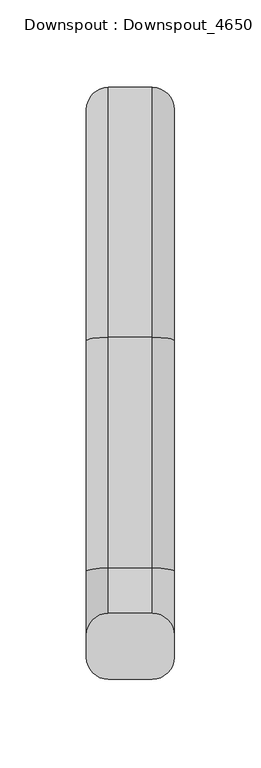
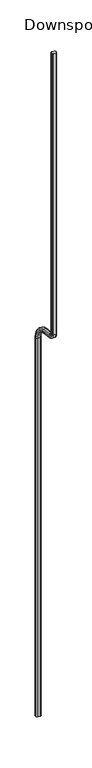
"""IFC4 building model written with IfcOpenShell, lengths in millimetres: proxy geometry, Downspout : Downspout_4650."""

from ifc_helpers import new_model, si_unit, point, frame, origin, place, context, project, spatial, polyline, circle_curve, ellipse_curve, trimmed, source, transform, mapped, element, save
from ifc_brep_helpers import plane_surface, cylinder_surface, revolved_surface, advanced_brep


def downspout_downspout_4650_563059b9(model_context):
    return source(origin(), model_context, "Body", "AdvancedBrep", [
        advanced_brep(
        [(-12.7, -323.85, 7924.8), (12.7, -323.85, 7924.8), (25.4, -311.15, 7924.8), (25.4, -298.45, 7924.8), (12.7, -285.75, 7924.8), (-12.7, -285.75, 7924.8), (-25.4, -298.45, 7924.8), (-25.4, -311.15, 7924.8), (-12.7, -323.85, 4643.3010696), (12.7, -323.85, 4643.3010696), (25.4, -311.15, 4643.3010696), (25.4, -262.9402297, 4586.8546809), (25.4, -129.5527464, 4565.728179), (25.4, -6.35, 4421.4762969), (25.4, -6.35, 0.0), (25.4, 6.35, 0.0), (25.4, 6.35, 4421.4762969), (25.4, -127.5660287, 4578.271821), (25.4, -260.953512, 4599.3983229), (25.4, -298.45, 4643.3010696), (12.7, -285.75, 4643.3010696), (-12.7, -285.75, 4643.3010696), (-25.4, -298.45, 4643.3010696), (-25.4, -260.953512, 4599.3983229), (-25.4, -127.5660287, 4578.271821), (-25.4, 6.35, 4421.4762969), (-25.4, 6.35, 0.0), (-25.4, -6.35, 0.0), (-25.4, -6.35, 4421.4762969), (-25.4, -129.5527464, 4565.728179), (-25.4, -262.9402297, 4586.8546809), (-25.4, -311.15, 4643.3010696), (12.7, -264.9269474, 4574.311039), (-12.7, -264.9269474, 4574.311039), (12.7, -258.9667943, 4611.9419648), (-12.7, -258.9667943, 4611.9419648), (-12.7, -131.5394641, 4553.1845371), (12.7, -131.5394641, 4553.1845371), (12.7, -125.579311, 4590.8154629), (-12.7, -125.579311, 4590.8154629), (12.7, -19.05, 4421.4762969), (-12.7, -19.05, 4421.4762969), (12.7, 19.05, 4421.4762969), (-12.7, 19.05, 4421.4762969), (-12.7, -19.05, 0.0), (-12.7, 19.05, 0.0), (12.7, 19.05, 0.0), (12.7, -19.05, 0.0)],
        [
            (0, 1),
            (1, 2, circle_curve(frame((12.7, -311.15, 7924.8), z_axis=(0.0, 0.0, 1.0), x_axis=(1.0, 0.0, 0.0)), 12.7)),
            (2, 3),
            (3, 4, circle_curve(frame((12.7, -298.45, 7924.8), z_axis=(0.0, 0.0, 1.0), x_axis=(1.0, 0.0, 0.0)), 12.7)),
            (4, 5),
            (5, 6, circle_curve(frame((-12.7, -298.45, 7924.8), z_axis=(0.0, 0.0, 1.0), x_axis=(1.0, 0.0, 0.0)), 12.7)),
            (6, 7),
            (7, 0, circle_curve(frame((-12.7, -311.15, 7924.8), z_axis=(0.0, 0.0, 1.0), x_axis=(1.0, 0.0, 0.0)), 12.7)),
            (0, 8),
            (8, 9),
            (9, 1),
            (9, 10, circle_curve(frame((12.7, -311.15, 4643.3010696), z_axis=(0.0, 0.0, 1.0), x_axis=(1.0, 0.0, 0.0)), 12.7)),
            (10, 2),
            (10, 11, circle_curve(frame((25.4, -254.0, 4643.3010696), z_axis=(1.0, 0.0, 0.0), x_axis=(0.0, -1.0, 0.0)), 57.15)),
            (11, 12),
            (12, 13, circle_curve(frame((25.4, -152.4, 4421.4762969), z_axis=(-1.0, 0.0, 0.0), x_axis=(0.0, 0.15643446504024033, 0.9876883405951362)), 146.05)),
            (13, 14),
            (14, 15),
            (15, 16),
            (16, 17, circle_curve(frame((25.4, -152.4, 4421.4762969), z_axis=(1.0, 0.0, 0.0), x_axis=(0.0, 0.15643446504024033, 0.9876883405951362)), 158.75)),
            (17, 18),
            (18, 19, circle_curve(frame((25.4, -254.0, 4643.3010696), z_axis=(-1.0, 0.0, 0.0), x_axis=(0.0, -1.0, 0.0)), 44.45)),
            (19, 3),
            (19, 20, circle_curve(frame((12.7, -298.45, 4643.3010696), z_axis=(0.0, 0.0, 1.0), x_axis=(1.0, 0.0, 0.0)), 12.7)),
            (20, 4),
            (20, 21),
            (21, 5),
            (21, 22, circle_curve(frame((-12.7, -298.45, 4643.3010696), z_axis=(0.0, 0.0, 1.0), x_axis=(1.0, 0.0, 0.0)), 12.7)),
            (22, 6),
            (22, 23, circle_curve(frame((-25.4, -254.0, 4643.3010696), z_axis=(1.0, 0.0, 0.0), x_axis=(0.0, -1.0, 0.0)), 44.45)),
            (23, 24),
            (24, 25, circle_curve(frame((-25.4, -152.4, 4421.4762969), z_axis=(-1.0, 0.0, 0.0), x_axis=(0.0, 0.15643446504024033, 0.9876883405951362)), 158.75)),
            (25, 26),
            (26, 27),
            (27, 28),
            (28, 29, circle_curve(frame((-25.4, -152.4, 4421.4762969), z_axis=(1.0, 0.0, 0.0), x_axis=(0.0, 0.15643446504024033, 0.9876883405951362)), 146.05)),
            (29, 30),
            (30, 31, circle_curve(frame((-25.4, -254.0, 4643.3010696), z_axis=(-1.0, 0.0, 0.0), x_axis=(0.0, -1.0, 0.0)), 57.15)),
            (31, 7),
            (31, 8, circle_curve(frame((-12.7, -311.15, 4643.3010696), z_axis=(0.0, 0.0, 1.0), x_axis=(1.0, 0.0, 0.0)), 12.7)),
            (32, 9, circle_curve(frame((12.7, -254.0, 4643.3010696), z_axis=(-1.0, 0.0, 0.0), x_axis=(0.0, -1.0, 0.0)), 69.85)),
            (8, 33, circle_curve(frame((-12.7, -254.0, 4643.3010696), z_axis=(1.0, 0.0, 0.0), x_axis=(0.0, -1.0, 0.0)), 69.85)),
            (33, 32),
            (32, 11, circle_curve(frame((12.7, -262.9402297, 4586.8546809), z_axis=(0.0, -0.9876883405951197, 0.15643446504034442), x_axis=(1.0, 0.0, 0.0)), 12.7)),
            (34, 20, circle_curve(frame((12.7, -254.0, 4643.3010696), z_axis=(-1.0, 0.0, 0.0), x_axis=(0.0, -1.0, 0.0)), 31.75)),
            (18, 34, circle_curve(frame((12.7, -260.953512, 4599.3983229), z_axis=(0.0, -0.9876883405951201, 0.1564344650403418), x_axis=(1.0, 0.0, 0.0)), 12.7)),
            (35, 21, circle_curve(frame((-12.7, -254.0, 4643.3010696), z_axis=(-1.0, 0.0, 0.0), x_axis=(0.0, -1.0, 0.0)), 31.75)),
            (34, 35),
            (35, 23, circle_curve(frame((-12.7, -260.953512, 4599.3983229), z_axis=(0.0, -0.9876883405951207, 0.15643446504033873), x_axis=(1.0, 0.0, 0.0)), 12.7)),
            (30, 33, circle_curve(frame((-12.7, -262.9402297, 4586.8546809), z_axis=(0.0, -0.9876883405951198, 0.15643446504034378), x_axis=(1.0, 0.0, 0.0)), 12.7)),
            (33, 36),
            (36, 37),
            (37, 32),
            (37, 12, circle_curve(frame((12.7, -129.5527464, 4565.728179), z_axis=(0.0, -0.9876883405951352, 0.15643446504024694), x_axis=(1.0, 0.0, 0.0)), 12.7)),
            (17, 38, circle_curve(frame((12.7, -127.5660287, 4578.271821), z_axis=(0.0, -0.9876883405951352, 0.15643446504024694), x_axis=(1.0, 0.0, 0.0)), 12.7)),
            (38, 34),
            (38, 39),
            (39, 35),
            (39, 24, circle_curve(frame((-12.7, -127.5660287, 4578.271821), z_axis=(0.0, -0.9876883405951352, 0.15643446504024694), x_axis=(1.0, 0.0, 0.0)), 12.7)),
            (29, 36, circle_curve(frame((-12.7, -129.5527464, 4565.728179), z_axis=(0.0, -0.9876883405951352, 0.15643446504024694), x_axis=(1.0, 0.0, 0.0)), 12.7)),
            (40, 37, circle_curve(frame((12.7, -152.4, 4421.4762969), z_axis=(1.0, 0.0, 0.0), x_axis=(0.0, 0.15643446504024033, 0.9876883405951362)), 133.35)),
            (36, 41, circle_curve(frame((-12.7, -152.4, 4421.4762969), z_axis=(-1.0, 0.0, 0.0), x_axis=(0.0, 0.15643446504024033, 0.9876883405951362)), 133.35)),
            (41, 40),
            (40, 13, circle_curve(frame((12.7, -6.35, 4421.4762969), z_axis=(0.0, 0.0, 1.0), x_axis=(1.0, 0.0, 0.0)), 12.7)),
            (42, 38, circle_curve(frame((12.7, -152.4, 4421.4762969), z_axis=(1.0, 0.0, 0.0), x_axis=(0.0, 0.15643446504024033, 0.9876883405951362)), 171.45)),
            (16, 42, circle_curve(frame((12.7, 6.35, 4421.4762969), z_axis=(0.0, 0.0, 1.0), x_axis=(1.0, 0.0, 0.0)), 12.7)),
            (43, 39, circle_curve(frame((-12.7, -152.4, 4421.4762969), z_axis=(1.0, 0.0, 0.0), x_axis=(0.0, 0.15643446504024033, 0.9876883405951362)), 171.45)),
            (42, 43),
            (43, 25, circle_curve(frame((-12.7, 6.35, 4421.4762969), z_axis=(0.0, 0.0, 1.0), x_axis=(1.0, 0.0, 0.0)), 12.7)),
            (28, 41, circle_curve(frame((-12.7, -6.35, 4421.4762969), z_axis=(0.0, 0.0, 1.0), x_axis=(1.0, 0.0, 0.0)), 12.7)),
            (44, 27, circle_curve(frame((-12.7, -6.35, 0.0), z_axis=(0.0, 0.0, -1.0), x_axis=(1.0, 0.0, 0.0)), 12.7)),
            (26, 45, circle_curve(frame((-12.7, 6.35, 0.0), z_axis=(0.0, 0.0, -1.0), x_axis=(1.0, 0.0, 0.0)), 12.7)),
            (45, 46),
            (46, 15, circle_curve(frame((12.7, 6.35, 0.0), z_axis=(0.0, 0.0, -1.0), x_axis=(1.0, 0.0, 0.0)), 12.7)),
            (14, 47, circle_curve(frame((12.7, -6.35, 0.0), z_axis=(0.0, 0.0, -1.0), x_axis=(1.0, 0.0, 0.0)), 12.7)),
            (47, 44),
            (41, 44),
            (47, 40),
            (46, 42),
            (45, 43),
        ],
        [
            plane_surface(frame((0.0, -304.8, 7924.8), z_axis=(0.0, 0.0, 1.0), x_axis=(1.0, 0.0, 0.0))),
            plane_surface(frame((-12.7, -323.85, 7924.8), z_axis=(0.0, -1.0, 0.0), x_axis=(0.0, 0.0, -1.0))),
            cylinder_surface(frame((12.7, -311.15, 7924.8), z_axis=(0.0, 0.0, 1.0), x_axis=(1.0, 0.0, 0.0)), 12.7),
            plane_surface(frame((25.4, -311.15, 7924.8), z_axis=(1.0, 0.0, 0.0), x_axis=(0.0, 0.0, -1.0))),
            cylinder_surface(frame((12.7, -298.45, 7924.8), z_axis=(0.0, 0.0, 1.0), x_axis=(1.0, 0.0, 0.0)), 12.7),
            plane_surface(frame((12.7, -285.75, 7924.8), z_axis=(0.0, 1.0, 0.0), x_axis=(0.0, 0.0, -1.0))),
            cylinder_surface(frame((-12.7, -298.45, 7924.8), z_axis=(0.0, 0.0, 1.0), x_axis=(1.0, 0.0, 0.0)), 12.7),
            plane_surface(frame((-25.4, -298.45, 7924.8), z_axis=(-1.0, 0.0, 0.0), x_axis=(0.0, 0.0, -1.0))),
            cylinder_surface(frame((-12.7, -311.15, 7924.8), z_axis=(0.0, 0.0, 1.0), x_axis=(1.0, 0.0, 0.0)), 12.7),
            cylinder_surface(frame((0.0, -254.0, 4643.3010696), z_axis=(1.0, 0.0, 0.0), x_axis=(0.0, -1.0, 0.0)), 69.85),
            revolved_surface(trimmed(ellipse_curve(frame((12.7, -311.15, 4643.3010696), z_axis=(0.0, 0.0, 1.0), x_axis=(1.0, 0.0, 0.0)), 12.7, 12.7), [point((12.7, -323.85, 4643.3010696))], [point((25.4, -311.15, 4643.3010696))], True, "CARTESIAN"), (0.0, -254.0, 4643.3010696), (1.0, 0.0, 0.0)),
            revolved_surface(trimmed(ellipse_curve(frame((12.7, -298.45, 4643.3010696), z_axis=(0.0, 0.0, 1.0), x_axis=(1.0, 0.0, 0.0)), 12.7, 12.7), [point((25.4, -298.45, 4643.3010696))], [point((12.7, -285.75, 4643.3010696))], True, "CARTESIAN"), (0.0, -254.0, 4643.3010696), (1.0, 0.0, 0.0)),
            revolved_surface(polyline([(12.7, -285.75, 4643.3010696), (-12.7, -285.75, 4643.3010696)]), (0.0, -254.0, 4643.3010696), (1.0, 0.0, 0.0)),
            revolved_surface(trimmed(ellipse_curve(frame((-12.7, -298.45, 4643.3010696), z_axis=(0.0, 0.0, 1.0), x_axis=(1.0, 0.0, 0.0)), 12.7, 12.7), [point((-12.7, -285.75, 4643.3010696))], [point((-25.4, -298.45, 4643.3010696))], True, "CARTESIAN"), (0.0, -254.0, 4643.3010696), (1.0, 0.0, 0.0)),
            revolved_surface(trimmed(ellipse_curve(frame((-12.7, -311.15, 4643.3010696), z_axis=(0.0, 0.0, 1.0), x_axis=(1.0, 0.0, 0.0)), 12.7, 12.7), [point((-25.4, -311.15, 4643.3010696))], [point((-12.7, -323.85, 4643.3010696))], True, "CARTESIAN"), (0.0, -254.0, 4643.3010696), (1.0, 0.0, 0.0)),
            plane_surface(frame((-12.7, -264.9269474, 4574.311039), z_axis=(0.0, -0.15643446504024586, -0.9876883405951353), x_axis=(0.0, 0.9876883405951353, -0.15643446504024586))),
            cylinder_surface(frame((12.7, -262.9402297, 4586.8546809), z_axis=(0.0, -0.9876883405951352, 0.15643446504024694), x_axis=(1.0, 0.0, 0.0)), 12.7),
            cylinder_surface(frame((12.7, -260.953512, 4599.3983229), z_axis=(0.0, -0.9876883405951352, 0.15643446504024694), x_axis=(1.0, 0.0, 0.0)), 12.7),
            plane_surface(frame((12.7, -258.9667943, 4611.9419648), z_axis=(0.0, 0.15643446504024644, 0.9876883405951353), x_axis=(0.0, 0.9876883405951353, -0.15643446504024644))),
            cylinder_surface(frame((-12.7, -260.953512, 4599.3983229), z_axis=(0.0, -0.9876883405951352, 0.15643446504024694), x_axis=(1.0, 0.0, 0.0)), 12.7),
            cylinder_surface(frame((-12.7, -262.9402297, 4586.8546809), z_axis=(0.0, -0.9876883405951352, 0.15643446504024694), x_axis=(1.0, 0.0, 0.0)), 12.7),
            revolved_surface(polyline([(-12.7, -131.53946408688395, 4553.184537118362), (12.7, -131.53946408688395, 4553.184537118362)]), (0.0, -152.4, 4421.4762969), (-1.0, 0.0, 0.0)),
            revolved_surface(trimmed(ellipse_curve(frame((12.7, -129.5527464, 4565.728179), z_axis=(0.0, -0.9876883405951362, 0.1564344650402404), x_axis=(1.0, 0.0, 0.0)), 12.7, 12.7), [point((12.7, -131.5394641, 4553.1845371))], [point((25.4, -129.5527464, 4565.728179))], True, "CARTESIAN"), (0.0, -152.4, 4421.4762969), (-1.0, 0.0, 0.0)),
            revolved_surface(trimmed(ellipse_curve(frame((12.7, -127.5660287, 4578.271821), z_axis=(0.0, -0.9876883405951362, 0.1564344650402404), x_axis=(1.0, 0.0, 0.0)), 12.7, 12.7), [point((25.4, -127.5660287, 4578.271821))], [point((12.7, -125.579311, 4590.8154629))], True, "CARTESIAN"), (0.0, -152.4, 4421.4762969), (-1.0, 0.0, 0.0)),
            cylinder_surface(frame((0.0, -152.4, 4421.4762969), z_axis=(-1.0, 0.0, 0.0), x_axis=(0.0, 0.15643446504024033, 0.9876883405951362)), 171.45),
            revolved_surface(trimmed(ellipse_curve(frame((-12.7, -127.5660287, 4578.271821), z_axis=(0.0, -0.9876883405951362, 0.1564344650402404), x_axis=(1.0, 0.0, 0.0)), 12.7, 12.7), [point((-12.7, -125.579311, 4590.8154629))], [point((-25.4, -127.5660287, 4578.271821))], True, "CARTESIAN"), (0.0, -152.4, 4421.4762969), (-1.0, 0.0, 0.0)),
            revolved_surface(trimmed(ellipse_curve(frame((-12.7, -129.5527464, 4565.728179), z_axis=(0.0, -0.9876883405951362, 0.1564344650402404), x_axis=(1.0, 0.0, 0.0)), 12.7, 12.7), [point((-25.4, -129.5527464, 4565.728179))], [point((-12.7, -131.5394641, 4553.1845371))], True, "CARTESIAN"), (0.0, -152.4, 4421.4762969), (-1.0, 0.0, 0.0)),
            plane_surface(frame((0.0, 0.0, 0.0), z_axis=(0.0, 0.0, -1.0), x_axis=(1.0, 0.0, 0.0))),
            plane_surface(frame((-12.7, -19.05, 4421.4762969), z_axis=(0.0, -1.0, 0.0), x_axis=(0.0, 0.0, -1.0))),
            cylinder_surface(frame((12.7, -6.35, 4421.4762969), z_axis=(0.0, 0.0, 1.0), x_axis=(1.0, 0.0, 0.0)), 12.7),
            cylinder_surface(frame((12.7, 6.35, 4421.4762969), z_axis=(0.0, 0.0, 1.0), x_axis=(1.0, 0.0, 0.0)), 12.7),
            plane_surface(frame((12.7, 19.05, 4421.4762969), z_axis=(0.0, 1.0, 0.0), x_axis=(0.0, 0.0, -1.0))),
            cylinder_surface(frame((-12.7, 6.35, 4421.4762969), z_axis=(0.0, 0.0, 1.0), x_axis=(1.0, 0.0, 0.0)), 12.7),
            cylinder_surface(frame((-12.7, -6.35, 4421.4762969), z_axis=(0.0, 0.0, 1.0), x_axis=(1.0, 0.0, 0.0)), 12.7),
        ],
        [
            (0, [[1, 2, 3, 4, 5, 6, 7, 8]]),
            (1, [[-1, 9, 10, 11]]),
            (2, [[-2, -11, 12, 13]]),
            (3, [[-3, -13, 14, 15, 16, 17, 18, 19, 20, 21, 22, 23]]),
            (4, [[-4, -23, 24, 25]]),
            (5, [[-5, -25, 26, 27]]),
            (6, [[-6, -27, 28, 29]]),
            (7, [[-7, -29, 30, 31, 32, 33, 34, 35, 36, 37, 38, 39]]),
            (8, [[-8, -39, 40, -9]]),
            (9, [[41, -10, 42, 43]]),
            (10, [[-14, -12, -41, 44]]),
            (11, [[45, -24, -22, 46]]),
            (12, [[47, -26, -45, 48]]),
            (13, [[-30, -28, -47, 49]]),
            (14, [[-42, -40, -38, 50]]),
            (15, [[-43, 51, 52, 53]]),
            (16, [[-44, -53, 54, -15]]),
            (17, [[-46, -21, 55, 56]]),
            (18, [[-48, -56, 57, 58]]),
            (19, [[-49, -58, 59, -31]]),
            (20, [[-50, -37, 60, -51]]),
            (21, [[61, -52, 62, 63]]),
            (22, [[-16, -54, -61, 64]]),
            (23, [[65, -55, -20, 66]]),
            (24, [[67, -57, -65, 68]]),
            (25, [[-32, -59, -67, 69]]),
            (26, [[-62, -60, -36, 70]]),
            (27, [[71, -34, 72, 73, 74, -18, 75, 76]]),
            (28, [[-63, 77, -76, 78]]),
            (29, [[-64, -78, -75, -17]]),
            (30, [[-66, -19, -74, 79]]),
            (31, [[-68, -79, -73, 80]]),
            (32, [[-69, -80, -72, -33]]),
            (33, [[-70, -35, -71, -77]]),
        ],
    ),
    ])


if __name__ == "__main__":
    model = new_model("IFC4")
    model_context = context("Model", 3, world=origin())
    ifc_project = project(units=[si_unit("LENGTHUNIT", "METRE", prefix="MILLI")], contexts=[model_context])
    site = spatial("IfcSite", under=ifc_project)
    building = spatial("IfcBuilding", under=site)
    placement = place(None, origin())
    downspout_downspout_4650_shape = downspout_downspout_4650_563059b9(model_context)
    element("IfcBuildingElementProxy", 1, Name="Downspout : Downspout_4650", ObjectType="Downspout : Downspout_4650", at=placement, inside=building, context=model_context, shape_type="MappedRepresentation", body=[
        mapped(downspout_downspout_4650_shape, transform((0.0, 0.0, 0.0), x_axis=(1.0, 0.0, 0.0), y_axis=(0.0, 1.0, 0.0), z_axis=(0.0, 0.0, 1.0))),
    ])
    save(model, "model.ifc")
